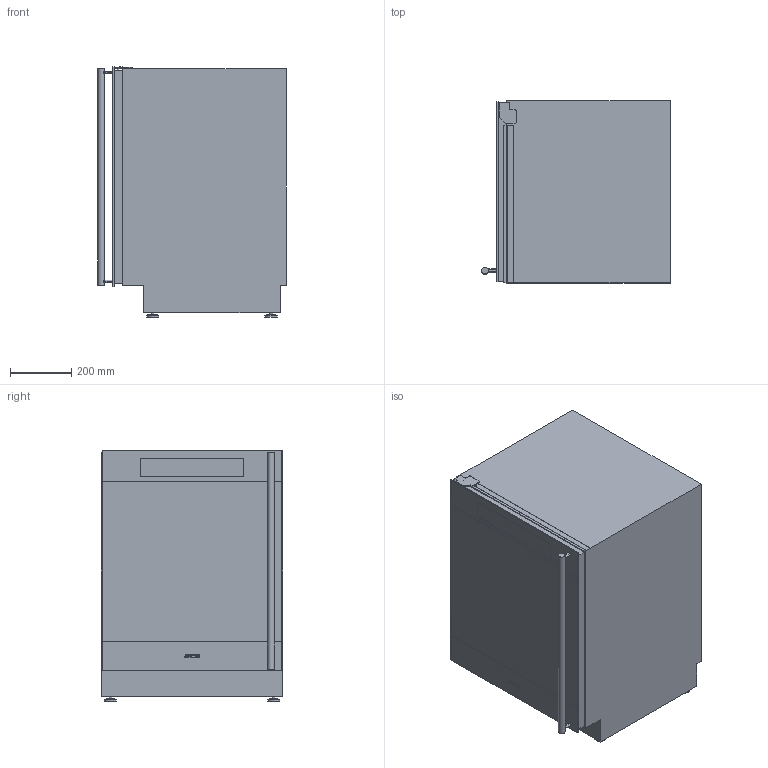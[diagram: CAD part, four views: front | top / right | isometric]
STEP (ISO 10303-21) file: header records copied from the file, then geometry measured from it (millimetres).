
FILE_DESCRIPTION(/* description */ (''),/* implementation_level */ '2;1');
FILE_NAME(/* name */ 'CVI338XS.stp',/* time_stamp */ '2017-09-25T10:29:55+02:00',/* author */ (''),/* organization */ (''),/* preprocessor_version */ 'ST-DEVELOPER v16',/* originating_system */ 'SIEMENS PLM Software NX 11.0',/* authorisation */ '');
FILE_SCHEMA (('AUTOMOTIVE_DESIGN { 1 0 10303 214 3 1 1 1 }'));
Length unit declared in the file: millimetre
Products named in the file (1): gras7EA07D2Atp0z
Bounding box: 617.2 x 595 x 818.45 mm (x, y, z)
Volume: 263908948.4 mm3; surface area: 4529418.6 mm2
Topology: 23 solids, 23 shells, 197 faces, 424 edges, 282 vertices
Faces by surface type: plane 128, cylinder 54, extrusion 11, cone 4
Full cylindrical faces by diameter (mm): 4.608 x6, 6 x5, 10.58 x4, 22 x2, 40 x4
Entity records: 5630 total; most frequent: CARTESIAN_POINT 1217, DIRECTION 858, ORIENTED_EDGE 792, EDGE_CURVE 396, AXIS2_PLACEMENT_3D 295, VERTEX_POINT 280, VECTOR 268, LINE 257
